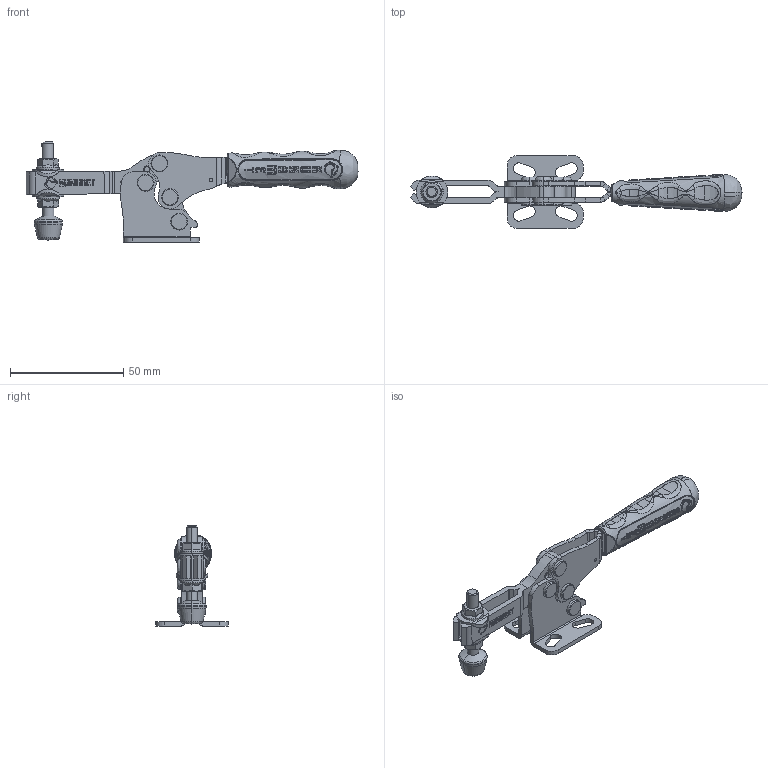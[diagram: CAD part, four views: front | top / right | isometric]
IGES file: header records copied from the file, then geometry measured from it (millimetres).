
Start section: 3D InterOp IGES (v. 2020 1.0.1), Spatial Corp. Copyright (c) 1999-2017.
Global section: file name: 111-1.igs; native system: Spatial Corp.; preprocessor: 3D InterOp ACIS/IGES; author: TraceParts; organization: TraceParts S.A.; date: 20230908.150354; units: millimetre
Bounding box: 146.87 x 32 x 44.29 mm (x, y, z)
Surface area: 17946 mm2 (no closed solid volume)
Topology: 0 solids, 0 shells, 1483 faces, 11346 edges, 11272 vertices
Faces by surface type: revolution 670, extrusion 438, bspline 375
